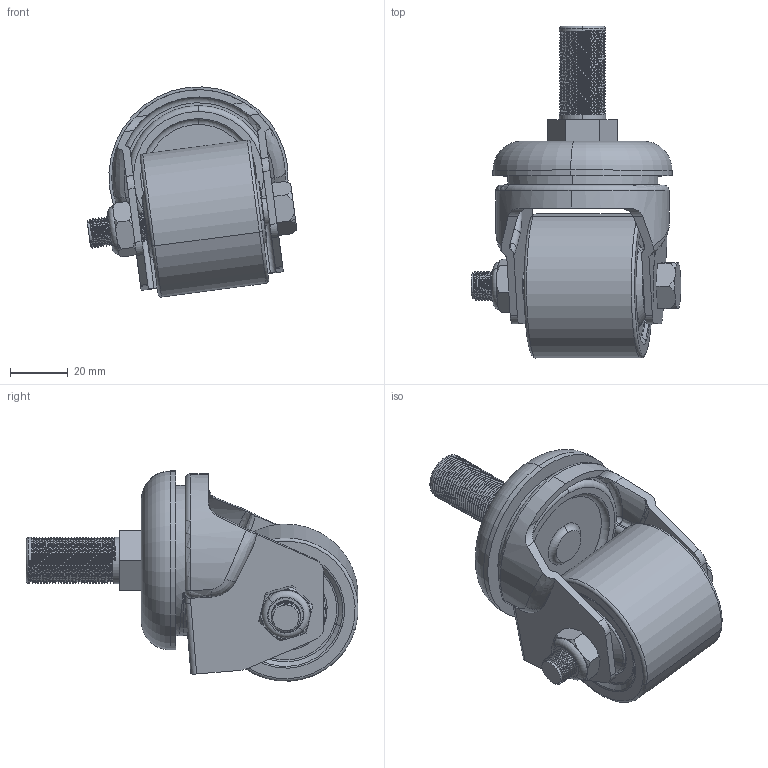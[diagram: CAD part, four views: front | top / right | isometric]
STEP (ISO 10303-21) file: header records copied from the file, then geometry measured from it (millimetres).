
FILE_DESCRIPTION (( 'STEP AP214' ), '1' );
FILE_NAME ('MXN50-T16.step', '2024-01-17T23:01:44', ( '' ), ( '' ), 'SwSTEP 2.0', 'SolidWorks 2022', '' );
FILE_SCHEMA (( 'AUTOMOTIVE_DESIGN' ));
Length unit declared in the file: millimetre
Products named in the file (7): MXN50 T16; MXN50; MXN50-P; MXN50-T16; M10X65; MXN 16MM STEM BOLT; M10-Nyloc
Assembly tree (6 placements, depth 2):
  MXN50-T16
    MXN50-P
    M10X65
    M10-Nyloc
    MXN50
    MXN50 T16
    MXN 16MM STEM BOLT
Bounding box: 72.54 x 114.8 x 72.7 mm (x, y, z)
Volume: 145035 mm3; surface area: 47798.7 mm2
Topology: 6 solids, 6 shells, 732 faces, 1963 edges, 1280 vertices
Faces by surface type: plane 301, cylinder 232, bspline 124, torus 40, cone 31, sphere 4
Entity records: 41023 total; most frequent: CARTESIAN_POINT 23203, ORIENTED_EDGE 3926, DIRECTION 2844, EDGE_CURVE 1963, VERTEX_POINT 1280, LINE 1058, VECTOR 1058, AXIS2_PLACEMENT_3D 893
